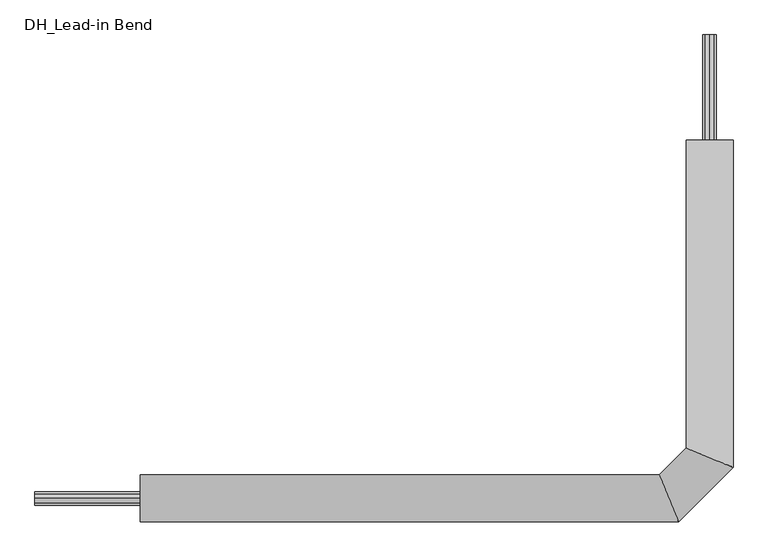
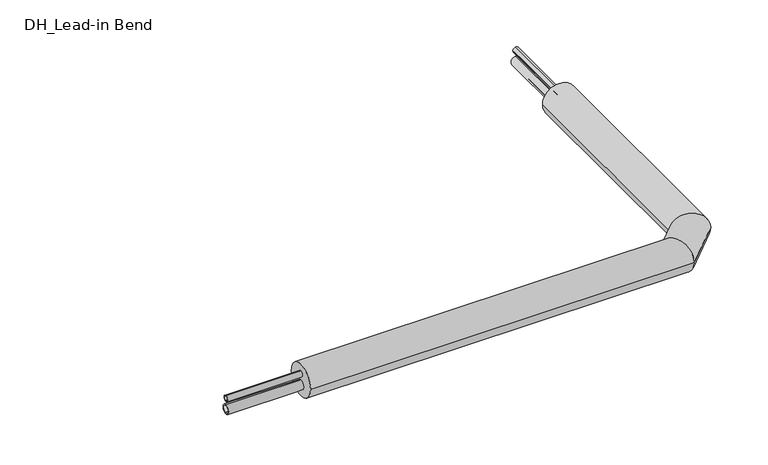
"""IFC4 building model written with IfcOpenShell, lengths in millimetres: pipe fitting geometry, DH_Lead-in Bend : RVT/RVX/RTX DUO 7.4 MKV DW Horizontal."""

from ifc_helpers import new_model, si_unit, point, frame, frame_2d, origin, place, context, project, spatial, circle_curve, ellipse_curve, trimmed, segment, composite_curve, outline, extrude, source, transform, mapped, element, save
from ifc_brep_helpers import plane_surface, cylinder_surface, advanced_brep


def dh_lead_in_bend_bfd7b119(model_context):
    return source(origin(), model_context, "Body", "SolidModel", [
        extrude(outline(composite_curve([segment(trimmed(circle_curve(frame_2d((0.0, -16.0)), 16.0), [point((0.0, 0.0))], [point((0.0, -32.0))], False, "CARTESIAN"), True, "CONTINUOUS"), segment(trimmed(circle_curve(frame_2d((0.0, -16.0)), 16.0), [point((0.0, -32.0))], [point((0.0, 0.0))], False, "CARTESIAN"), True, "CONTINUOUS")], self_intersect=False), holes=[composite_curve([segment(trimmed(circle_curve(frame_2d((0.0, -16.0)), 11.6), [point((0.0, -4.4))], [point((0.0, -27.6))], True, "CARTESIAN"), True, "CONTINUOUS"), segment(trimmed(circle_curve(frame_2d((0.0, -16.0)), 11.6), [point((0.0, -27.6))], [point((0.0, -4.4))], True, "CARTESIAN"), True, "CONTINUOUS")], self_intersect=False)]), frame((-1600.0, 0.0, 0.0), z_axis=(1.0, 0.0, 0.0), x_axis=(0.0, 1.0, 0.0)), (0.0, 0.0, 1.0), 250.0),
        advanced_brep(
        [(-1350.0, -55.5, 0.0), (-1350.0, 55.5, 0.0), (-73.5111473, -55.5, 0.0), (-119.4888527, 55.5, 0.0), (55.5, 850.0, 0.0), (-55.5, 850.0, 0.0), (-55.5, 119.4888527, 0.0), (55.5, 73.5111473, 0.0)],
        [
            (0, 1, circle_curve(frame((-1350.0, 0.0, 0.0), z_axis=(-1.0, 0.0, 0.0), x_axis=(0.0, 1.0, 0.0)), 55.5)),
            (1, 0, circle_curve(frame((-1350.0, 0.0, 0.0), z_axis=(-1.0, 0.0, 0.0), x_axis=(0.0, 1.0, 0.0)), 55.5)),
            (0, 2),
            (2, 3, ellipse_curve(frame((-96.5, 0.0, 0.0), z_axis=(-0.9238795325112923, -0.38268343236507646, 0.0), x_axis=(-0.38268343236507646, 0.9238795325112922, 0.0)), 60.0727671, 55.5)),
            (3, 1),
            (3, 2, ellipse_curve(frame((-96.5, 0.0, 0.0), z_axis=(-0.9238795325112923, -0.38268343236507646, 0.0), x_axis=(-0.38268343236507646, 0.9238795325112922, 0.0)), 60.0727671, 55.5)),
            (4, 5, circle_curve(frame((0.0, 850.0, 0.0), z_axis=(0.0, 1.0, 0.0), x_axis=(-1.0, 0.0, 0.0)), 55.5)),
            (5, 4, circle_curve(frame((0.0, 850.0, 0.0), z_axis=(0.0, 1.0, 0.0), x_axis=(-1.0, 0.0, 0.0)), 55.5)),
            (6, 7, ellipse_curve(frame((0.0, 96.5, 0.0), z_axis=(0.3826834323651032, 0.9238795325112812, 0.0), x_axis=(0.9238795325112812, -0.3826834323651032, 0.0)), 60.0727671, 55.5)),
            (7, 4),
            (5, 6),
            (7, 6, ellipse_curve(frame((0.0, 96.5, 0.0), z_axis=(0.3826834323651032, 0.9238795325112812, 0.0), x_axis=(0.9238795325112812, -0.3826834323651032, 0.0)), 60.0727671, 55.5)),
            (2, 7),
            (6, 3),
        ],
        [
            plane_surface(frame((-1350.0, 0.0, 0.0), z_axis=(-1.0, 0.0, 0.0), x_axis=(0.0, 0.0, 1.0))),
            cylinder_surface(frame((-1350.0, 0.0, 0.0), z_axis=(-1.0, 0.0, 0.0), x_axis=(0.0, 1.0, 0.0)), 55.5),
            plane_surface(frame((0.0, 850.0, 0.0), z_axis=(0.0, 1.0, 0.0), x_axis=(0.0, 0.0, 1.0))),
            cylinder_surface(frame((0.0, 96.5, 0.0), z_axis=(0.0, -1.0, 0.0), x_axis=(-1.0, 0.0, 0.0)), 55.5),
            cylinder_surface(frame((-96.5, 0.0, 0.0), z_axis=(-0.707106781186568, -0.7071067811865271, 0.0), x_axis=(-0.7071067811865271, 0.707106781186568, 0.0)), 55.5),
        ],
        [
            (0, [[1, 2]]),
            (1, [[-1, 3, 4, 5]]),
            (1, [[-2, -5, 6, -3]]),
            (2, [[7, 8]]),
            (3, [[9, 10, -8, 11]]),
            (3, [[12, -11, -7, -10]]),
            (4, [[-4, 13, -9, 14]]),
            (4, [[-6, -14, -12, -13]]),
        ],
    ),
        extrude(outline(composite_curve([segment(trimmed(circle_curve(frame_2d((22.0, 0.0)), 10.0), [point((12.0, 0.0))], [point((32.0, 0.0))], False, "CARTESIAN"), True, "CONTINUOUS"), segment(trimmed(circle_curve(frame_2d((22.0, 0.0)), 10.0), [point((32.0, 0.0))], [point((12.0, 0.0))], False, "CARTESIAN"), True, "CONTINUOUS")], self_intersect=False), holes=[composite_curve([segment(trimmed(circle_curve(frame_2d((22.0, 0.0)), 7.2), [point((14.8, 0.0))], [point((29.2, 0.0))], True, "CARTESIAN"), True, "CONTINUOUS"), segment(trimmed(circle_curve(frame_2d((22.0, 0.0)), 7.2), [point((29.2, 0.0))], [point((14.8, 0.0))], True, "CARTESIAN"), True, "CONTINUOUS")], self_intersect=False)]), frame((0.0, 850.0, 0.0), z_axis=(0.0, 1.0, 0.0), x_axis=(0.0, 0.0, 1.0)), (0.0, 0.0, 1.0), 250.0),
        extrude(outline(composite_curve([segment(trimmed(circle_curve(frame_2d((0.0, 22.0)), 10.0), [point((0.0, 12.0))], [point((0.0, 32.0))], False, "CARTESIAN"), True, "CONTINUOUS"), segment(trimmed(circle_curve(frame_2d((0.0, 22.0)), 10.0), [point((0.0, 32.0))], [point((0.0, 12.0))], False, "CARTESIAN"), True, "CONTINUOUS")], self_intersect=False), holes=[composite_curve([segment(trimmed(circle_curve(frame_2d((0.0, 22.0)), 7.2), [point((0.0, 14.8))], [point((0.0, 29.2))], True, "CARTESIAN"), True, "CONTINUOUS"), segment(trimmed(circle_curve(frame_2d((0.0, 22.0)), 7.2), [point((0.0, 29.2))], [point((0.0, 14.8))], True, "CARTESIAN"), True, "CONTINUOUS")], self_intersect=False)]), frame((-1600.0, 0.0, 0.0), z_axis=(1.0, 0.0, 0.0), x_axis=(0.0, 1.0, 0.0)), (0.0, 0.0, 1.0), 250.0),
        extrude(outline(composite_curve([segment(trimmed(circle_curve(frame_2d((-16.0, 0.0)), 16.0), [point((0.0, 0.0))], [point((-32.0, 0.0))], False, "CARTESIAN"), True, "CONTINUOUS"), segment(trimmed(circle_curve(frame_2d((-16.0, 0.0)), 16.0), [point((-32.0, 0.0))], [point((0.0, 0.0))], False, "CARTESIAN"), True, "CONTINUOUS")], self_intersect=False), holes=[composite_curve([segment(trimmed(circle_curve(frame_2d((-16.0, 0.0)), 11.6), [point((-4.4, 0.0))], [point((-27.6, 0.0))], True, "CARTESIAN"), True, "CONTINUOUS"), segment(trimmed(circle_curve(frame_2d((-16.0, 0.0)), 11.6), [point((-27.6, 0.0))], [point((-4.4, 0.0))], True, "CARTESIAN"), True, "CONTINUOUS")], self_intersect=False)]), frame((0.0, 850.0, 0.0), z_axis=(0.0, 1.0, 0.0), x_axis=(0.0, 0.0, 1.0)), (0.0, 0.0, 1.0), 250.0),
    ])


if __name__ == "__main__":
    model = new_model("IFC4")
    model_context = context("Model", 3, world=origin())
    ifc_project = project(units=[si_unit("LENGTHUNIT", "METRE", prefix="MILLI")], contexts=[model_context])
    site = spatial("IfcSite", under=ifc_project)
    building = spatial("IfcBuilding", under=site)
    placement = place(None, origin())
    dh_lead_in_bend_shape = dh_lead_in_bend_bfd7b119(model_context)
    element("IfcPipeFitting", 1, ObjectType="DH_Lead-in Bend : RVT/RVX/RTX DUO 7.4 MKV DW Horizontal", at=placement, inside=building, context=model_context, shape_type="MappedRepresentation", body=[
        mapped(dh_lead_in_bend_shape, transform((0.0, 0.0, 0.0), x_axis=(1.0, 0.0, 0.0), y_axis=(0.0, 1.0, 0.0), z_axis=(0.0, 0.0, 1.0))),
    ])
    save(model, "model.ifc")
